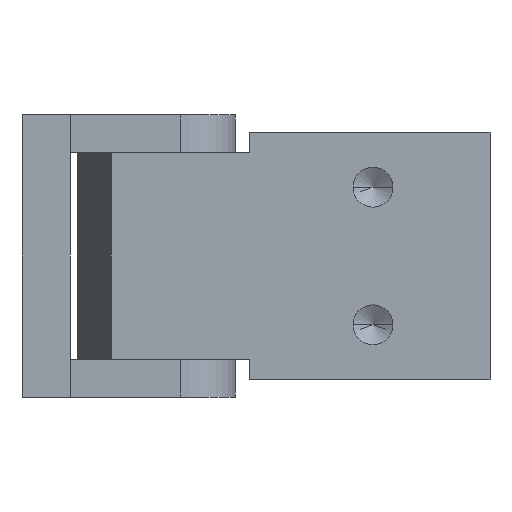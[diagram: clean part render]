
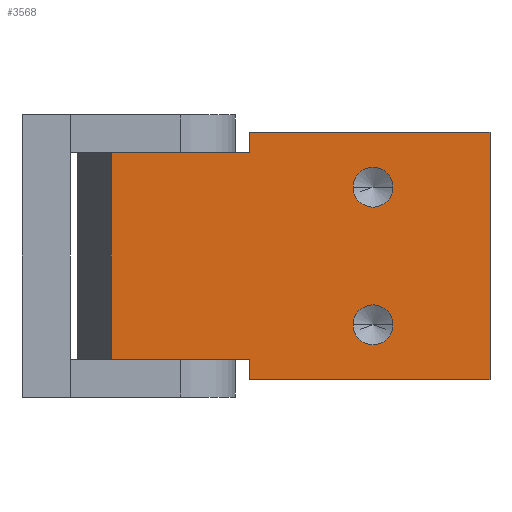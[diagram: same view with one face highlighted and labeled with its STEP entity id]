
A CAD part, left-side view. The second image highlights one B-rep face of the part: STEP entity #3568.
In plain terms, the highlighted planar face has unit normal (-1, 0, 0).
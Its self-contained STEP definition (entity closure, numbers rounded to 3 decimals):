
#772 = DIRECTION ( 'NONE',  ( 0., 0., 1. ) ) ;
#773 = DIRECTION ( 'NONE',  ( -1., 0., 0. ) ) ;
#774 = CARTESIAN_POINT ( 'NONE',  ( 0., 8., 18. ) ) ;
#775 = AXIS2_PLACEMENT_3D ( 'NONE', #774, #773, #772 ) ;
#777 = CIRCLE ( 'NONE', #775, 2.9 ) ;
#937 = CARTESIAN_POINT ( 'NONE',  ( 0., 8., 15.1 ) ) ;
#1100 = CARTESIAN_POINT ( 'NONE',  ( 0., 8., 20.9 ) ) ;
#1129 = DIRECTION ( 'NONE',  ( 0., 0., 1. ) ) ;
#1130 = DIRECTION ( 'NONE',  ( -1., 0., 0. ) ) ;
#1131 = AXIS2_PLACEMENT_3D ( 'NONE', #1172, #1130, #1129 ) ;
#1136 = CARTESIAN_POINT ( 'NONE',  ( 0., 28., 15.1 ) ) ;
#1146 = CIRCLE ( 'NONE', #1131, 2.9 ) ;
#1172 = CARTESIAN_POINT ( 'NONE',  ( 0., 28., 18. ) ) ;
#1184 = CARTESIAN_POINT ( 'NONE',  ( 0., 28., 20.9 ) ) ;
#1367 = CARTESIAN_POINT ( 'NONE',  ( 0., 36., 35. ) ) ;
#1371 = CARTESIAN_POINT ( 'NONE',  ( 0., 36., 0. ) ) ;
#1377 = VECTOR ( 'NONE', #1456, 1000. ) ;
#1378 = CARTESIAN_POINT ( 'NONE',  ( 0., 36., 35. ) ) ;
#1422 = LINE ( 'NONE', #1378, #1377 ) ;
#1456 = DIRECTION ( 'NONE',  ( 0., 0., -1. ) ) ;
#1505 = DIRECTION ( 'NONE',  ( 0., 0., -1. ) ) ;
#1506 = VECTOR ( 'NONE', #1505, 1000. ) ;
#1507 = CARTESIAN_POINT ( 'NONE',  ( 0., 0., 35. ) ) ;
#1567 = LINE ( 'NONE', #1507, #1506 ) ;
#1568 = CARTESIAN_POINT ( 'NONE',  ( 0., 0., 0. ) ) ;
#1572 = CARTESIAN_POINT ( 'NONE',  ( 0., 3., 0. ) ) ;
#1576 = DIRECTION ( 'NONE',  ( 0., -1., 0. ) ) ;
#1577 = VECTOR ( 'NONE', #1576, 1000. ) ;
#1578 = CARTESIAN_POINT ( 'NONE',  ( 0., 0., 0. ) ) ;
#1579 = LINE ( 'NONE', #1578, #1577 ) ;
#1644 = CARTESIAN_POINT ( 'NONE',  ( 0., 33., -20. ) ) ;
#1647 = CIRCLE ( 'NONE', #1717, 2.9 ) ;
#1654 = AXIS2_PLACEMENT_3D ( 'NONE', #1682, #1681, #1719 ) ;
#1655 = CARTESIAN_POINT ( 'NONE',  ( 0., 0., 35. ) ) ;
#1659 = CARTESIAN_POINT ( 'NONE',  ( 0., 28., 18. ) ) ;
#1667 = DIRECTION ( 'NONE',  ( 0., 0., 1. ) ) ;
#1670 = FACE_BOUND ( 'NONE', #3651, .T. ) ;
#1671 = PLANE ( 'NONE',  #1654 ) ;
#1672 = FACE_BOUND ( 'NONE', #3687, .T. ) ;
#1681 = DIRECTION ( 'NONE',  ( 1., 0., 0. ) ) ;
#1682 = CARTESIAN_POINT ( 'NONE',  ( 0., 0., 35. ) ) ;
#1687 = DIRECTION ( 'NONE',  ( -1., 0., 0. ) ) ;
#1706 = FACE_OUTER_BOUND ( 'NONE', #3647, .T. ) ;
#1717 = AXIS2_PLACEMENT_3D ( 'NONE', #1659, #1687, #1667 ) ;
#1719 = DIRECTION ( 'NONE',  ( 0., 0., -1. ) ) ;
#1729 = VECTOR ( 'NONE', #1754, 1000. ) ;
#1730 = VECTOR ( 'NONE', #1745, 1000. ) ;
#1731 = CARTESIAN_POINT ( 'NONE',  ( 0., 0., 0. ) ) ;
#1732 = CARTESIAN_POINT ( 'NONE',  ( 0., 3., -25. ) ) ;
#1742 = LINE ( 'NONE', #1731, #1730 ) ;
#1743 = LINE ( 'NONE', #1732, #1729 ) ;
#1744 = LINE ( 'NONE', #1766, #1756 ) ;
#1745 = DIRECTION ( 'NONE',  ( 0., -1., 0. ) ) ;
#1754 = DIRECTION ( 'NONE',  ( 0., 0., 1. ) ) ;
#1756 = VECTOR ( 'NONE', #1768, 1000. ) ;
#1766 = CARTESIAN_POINT ( 'NONE',  ( 0., 0., 35. ) ) ;
#1768 = DIRECTION ( 'NONE',  ( 0., -1., 0. ) ) ;
#1808 = CARTESIAN_POINT ( 'NONE',  ( 0., 8., 18. ) ) ;
#1809 = AXIS2_PLACEMENT_3D ( 'NONE', #1808, #1854, #1953 ) ;
#1846 = CARTESIAN_POINT ( 'NONE',  ( 0., 33., 0. ) ) ;
#1854 = DIRECTION ( 'NONE',  ( -1., 0., 0. ) ) ;
#1883 = CIRCLE ( 'NONE', #1809, 2.9 ) ;
#1953 = DIRECTION ( 'NONE',  ( 0., 0., 1. ) ) ;
#1970 = LINE ( 'NONE', #2004, #2003 ) ;
#1985 = CARTESIAN_POINT ( 'NONE',  ( 0., 33., -25. ) ) ;
#1995 = VECTOR ( 'NONE', #2041, 1000. ) ;
#2003 = VECTOR ( 'NONE', #2024, 1000. ) ;
#2004 = CARTESIAN_POINT ( 'NONE',  ( 0., 3., -20. ) ) ;
#2012 = CARTESIAN_POINT ( 'NONE',  ( 0., 3., -20. ) ) ;
#2023 = LINE ( 'NONE', #1985, #1995 ) ;
#2024 = DIRECTION ( 'NONE',  ( 0., -1., 0. ) ) ;
#2041 = DIRECTION ( 'NONE',  ( 0., 0., 1. ) ) ;
#3158 = EDGE_CURVE ( 'NONE', #3165, #3282, #777, .T. ) ;
#3165 = VERTEX_POINT ( 'NONE', #937 ) ;
#3261 = VERTEX_POINT ( 'NONE', #1136 ) ;
#3279 = VERTEX_POINT ( 'NONE', #1184 ) ;
#3282 = VERTEX_POINT ( 'NONE', #1100 ) ;
#3290 = EDGE_CURVE ( 'NONE', #3261, #3279, #1146, .T. ) ;
#3370 = VERTEX_POINT ( 'NONE', #1371 ) ;
#3374 = VERTEX_POINT ( 'NONE', #1367 ) ;
#3376 = EDGE_CURVE ( 'NONE', #3374, #3370, #1422, .T. ) ;
#3486 = EDGE_CURVE ( 'NONE', #3497, #3504, #1579, .T. ) ;
#3489 = EDGE_CURVE ( 'NONE', #3544, #3504, #1567, .T. ) ;
#3497 = VERTEX_POINT ( 'NONE', #1572 ) ;
#3504 = VERTEX_POINT ( 'NONE', #1568 ) ;
#3544 = VERTEX_POINT ( 'NONE', #1655 ) ;
#3550 = VERTEX_POINT ( 'NONE', #1644 ) ;
#3551 = ORIENTED_EDGE ( 'NONE', *, *, #3376, .T. ) ;
#3552 = ORIENTED_EDGE ( 'NONE', *, *, #3158, .F. ) ;
#3568 = ADVANCED_FACE ( 'NONE', ( #1670, #1672, #1706 ), #1671, .F. ) ;
#3572 = EDGE_CURVE ( 'NONE', #3279, #3261, #1647, .T. ) ;
#3586 = ORIENTED_EDGE ( 'NONE', *, *, #3601, .T. ) ;
#3597 = ORIENTED_EDGE ( 'NONE', *, *, #3744, .F. ) ;
#3598 = EDGE_CURVE ( 'NONE', #3738, #3497, #1743, .T. ) ;
#3600 = ORIENTED_EDGE ( 'NONE', *, *, #3650, .F. ) ;
#3601 = EDGE_CURVE ( 'NONE', #3370, #3702, #1742, .T. ) ;
#3602 = ORIENTED_EDGE ( 'NONE', *, *, #3489, .F. ) ;
#3603 = ORIENTED_EDGE ( 'NONE', *, *, #3486, .T. ) ;
#3604 = EDGE_CURVE ( 'NONE', #3374, #3544, #1744, .T. ) ;
#3619 = ORIENTED_EDGE ( 'NONE', *, *, #3739, .T. ) ;
#3622 = ORIENTED_EDGE ( 'NONE', *, *, #3598, .T. ) ;
#3647 = EDGE_LOOP ( 'NONE', ( #3597, #3619, #3622, #3603, #3602, #3669, #3551, #3586 ) ) ;
#3650 = EDGE_CURVE ( 'NONE', #3282, #3165, #1883, .T. ) ;
#3651 = EDGE_LOOP ( 'NONE', ( #3600, #3552 ) ) ;
#3669 = ORIENTED_EDGE ( 'NONE', *, *, #3604, .F. ) ;
#3687 = EDGE_LOOP ( 'NONE', ( #3688, #3740 ) ) ;
#3688 = ORIENTED_EDGE ( 'NONE', *, *, #3572, .F. ) ;
#3702 = VERTEX_POINT ( 'NONE', #1846 ) ;
#3738 = VERTEX_POINT ( 'NONE', #2012 ) ;
#3739 = EDGE_CURVE ( 'NONE', #3550, #3738, #1970, .T. ) ;
#3740 = ORIENTED_EDGE ( 'NONE', *, *, #3290, .F. ) ;
#3744 = EDGE_CURVE ( 'NONE', #3550, #3702, #2023, .T. ) ;
